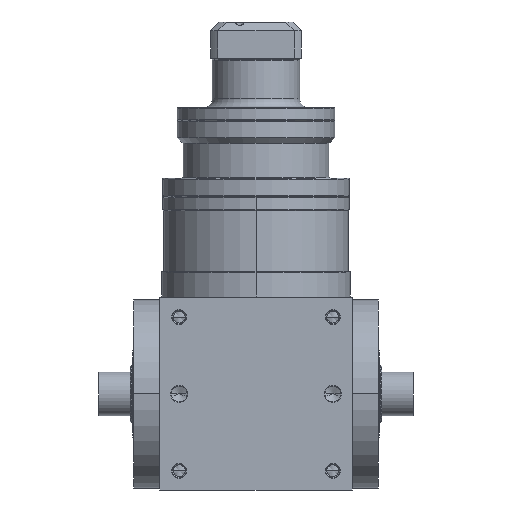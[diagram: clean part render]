
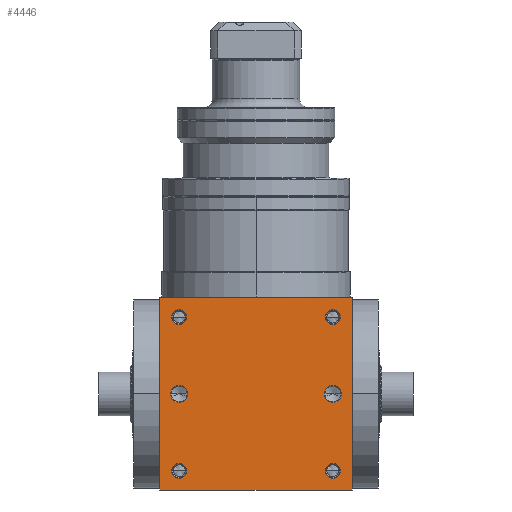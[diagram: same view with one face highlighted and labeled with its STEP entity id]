
A CAD part, front view. The second image highlights one B-rep face of the part: STEP entity #4446.
In plain terms, the highlighted planar face has unit normal (0, -1, 0).
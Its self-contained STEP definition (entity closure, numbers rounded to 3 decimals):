
#5=DIRECTION('',(1.,0.,0.));
#6=VECTOR('',#5,110.);
#7=CARTESIAN_POINT('',(-55.,-55.,-55.));
#8=LINE('',#7,#6);
#155=DIRECTION('',(0.,0.,1.));
#156=VECTOR('',#155,110.);
#157=CARTESIAN_POINT('',(55.,-55.,-55.));
#158=LINE('',#157,#156);
#209=DIRECTION('',(0.,0.,1.));
#210=VECTOR('',#209,110.);
#211=CARTESIAN_POINT('',(-55.,-55.,-55.));
#212=LINE('',#211,#210);
#213=CARTESIAN_POINT('',(44.,-55.,44.));
#214=DIRECTION('',(0.,1.,0.));
#215=DIRECTION('',(-1.,0.,0.));
#216=AXIS2_PLACEMENT_3D('',#213,#214,#215);
#218=CARTESIAN_POINT('',(44.,-55.,44.));
#219=DIRECTION('',(0.,1.,0.));
#220=DIRECTION('',(1.,0.,0.));
#221=AXIS2_PLACEMENT_3D('',#218,#219,#220);
#223=CARTESIAN_POINT('',(-44.,-55.,44.));
#224=DIRECTION('',(0.,1.,0.));
#225=DIRECTION('',(-1.,0.,0.));
#226=AXIS2_PLACEMENT_3D('',#223,#224,#225);
#228=CARTESIAN_POINT('',(-44.,-55.,44.));
#229=DIRECTION('',(0.,1.,0.));
#230=DIRECTION('',(1.,0.,0.));
#231=AXIS2_PLACEMENT_3D('',#228,#229,#230);
#233=CARTESIAN_POINT('',(44.,-55.,-44.));
#234=DIRECTION('',(0.,1.,0.));
#235=DIRECTION('',(-1.,0.,0.));
#236=AXIS2_PLACEMENT_3D('',#233,#234,#235);
#238=CARTESIAN_POINT('',(44.,-55.,-44.));
#239=DIRECTION('',(0.,1.,0.));
#240=DIRECTION('',(1.,0.,0.));
#241=AXIS2_PLACEMENT_3D('',#238,#239,#240);
#243=CARTESIAN_POINT('',(-44.,-55.,-44.));
#244=DIRECTION('',(0.,1.,0.));
#245=DIRECTION('',(-1.,0.,0.));
#246=AXIS2_PLACEMENT_3D('',#243,#244,#245);
#248=CARTESIAN_POINT('',(-44.,-55.,-44.));
#249=DIRECTION('',(0.,1.,0.));
#250=DIRECTION('',(1.,0.,0.));
#251=AXIS2_PLACEMENT_3D('',#248,#249,#250);
#253=CARTESIAN_POINT('',(-44.,-55.,0.));
#254=DIRECTION('',(0.,1.,0.));
#255=DIRECTION('',(1.,0.,0.));
#256=AXIS2_PLACEMENT_3D('',#253,#254,#255);
#258=CARTESIAN_POINT('',(-44.,-55.,0.));
#259=DIRECTION('',(0.,1.,0.));
#260=DIRECTION('',(-1.,0.,0.));
#261=AXIS2_PLACEMENT_3D('',#258,#259,#260);
#263=CARTESIAN_POINT('',(44.,-55.,0.));
#264=DIRECTION('',(0.,1.,0.));
#265=DIRECTION('',(1.,0.,0.));
#266=AXIS2_PLACEMENT_3D('',#263,#264,#265);
#268=CARTESIAN_POINT('',(44.,-55.,0.));
#269=DIRECTION('',(0.,1.,0.));
#270=DIRECTION('',(-1.,0.,0.));
#271=AXIS2_PLACEMENT_3D('',#268,#269,#270);
#285=DIRECTION('',(1.,0.,0.));
#286=VECTOR('',#285,110.);
#287=CARTESIAN_POINT('',(-55.,-55.,55.));
#288=LINE('',#287,#286);
#3580=CARTESIAN_POINT('',(-55.,-55.,-55.));
#3582=VERTEX_POINT('',#3580);
#3583=CARTESIAN_POINT('',(55.,-55.,-55.));
#3584=VERTEX_POINT('',#3583);
#3588=CARTESIAN_POINT('',(-55.,-55.,55.));
#3590=VERTEX_POINT('',#3588);
#3591=CARTESIAN_POINT('',(55.,-55.,55.));
#3592=VERTEX_POINT('',#3591);
#3747=CARTESIAN_POINT('',(39.8,-55.,44.));
#3748=CARTESIAN_POINT('',(48.2,-55.,44.));
#3749=VERTEX_POINT('',#3747);
#3750=VERTEX_POINT('',#3748);
#3755=CARTESIAN_POINT('',(-48.2,-55.,44.));
#3756=CARTESIAN_POINT('',(-39.8,-55.,44.));
#3757=VERTEX_POINT('',#3755);
#3758=VERTEX_POINT('',#3756);
#3763=CARTESIAN_POINT('',(39.8,-55.,-44.));
#3764=CARTESIAN_POINT('',(48.2,-55.,-44.));
#3765=VERTEX_POINT('',#3763);
#3766=VERTEX_POINT('',#3764);
#3771=CARTESIAN_POINT('',(-48.2,-55.,-44.));
#3772=CARTESIAN_POINT('',(-39.8,-55.,-44.));
#3773=VERTEX_POINT('',#3771);
#3774=VERTEX_POINT('',#3772);
#4095=CARTESIAN_POINT('',(-39.15,-55.,
0.));
#4096=CARTESIAN_POINT('',(-48.85,-55.,
0.));
#4097=VERTEX_POINT('',#4095);
#4098=VERTEX_POINT('',#4096);
#4103=CARTESIAN_POINT('',(48.85,-55.,0.));
#4104=CARTESIAN_POINT('',(39.15,-55.,0.));
#4105=VERTEX_POINT('',#4103);
#4106=VERTEX_POINT('',#4104);
#4398=CARTESIAN_POINT('',(-55.,-55.,-55.));
#4399=DIRECTION('',(0.,-1.,0.));
#4400=DIRECTION('',(1.,0.,0.));
#4401=AXIS2_PLACEMENT_3D('',#4398,#4399,#4400);
#4402=PLANE('',#4401);
#4403=ORIENTED_EDGE('',*,*,#4238,.F.);
#4404=ORIENTED_EDGE('',*,*,#4281,.T.);
#4406=ORIENTED_EDGE('',*,*,#4405,.T.);
#4407=ORIENTED_EDGE('',*,*,#4360,.F.);
#4408=EDGE_LOOP('',(#4403,#4404,#4406,#4407));
#4409=FACE_OUTER_BOUND('',#4408,.F.);
#4411=ORIENTED_EDGE('',*,*,#4410,.F.);
#4413=ORIENTED_EDGE('',*,*,#4412,.F.);
#4414=EDGE_LOOP('',(#4411,#4413));
#4415=FACE_BOUND('',#4414,.F.);
#4417=ORIENTED_EDGE('',*,*,#4416,.F.);
#4419=ORIENTED_EDGE('',*,*,#4418,.F.);
#4420=EDGE_LOOP('',(#4417,#4419));
#4421=FACE_BOUND('',#4420,.F.);
#4423=ORIENTED_EDGE('',*,*,#4422,.F.);
#4425=ORIENTED_EDGE('',*,*,#4424,.F.);
#4426=EDGE_LOOP('',(#4423,#4425));
#4427=FACE_BOUND('',#4426,.F.);
#4429=ORIENTED_EDGE('',*,*,#4428,.F.);
#4431=ORIENTED_EDGE('',*,*,#4430,.F.);
#4432=EDGE_LOOP('',(#4429,#4431));
#4433=FACE_BOUND('',#4432,.F.);
#4435=ORIENTED_EDGE('',*,*,#4434,.F.);
#4437=ORIENTED_EDGE('',*,*,#4436,.F.);
#4438=EDGE_LOOP('',(#4435,#4437));
#4439=FACE_BOUND('',#4438,.F.);
#4441=ORIENTED_EDGE('',*,*,#4440,.F.);
#4443=ORIENTED_EDGE('',*,*,#4442,.F.);
#4444=EDGE_LOOP('',(#4441,#4443));
#4445=FACE_BOUND('',#4444,.F.);
#4446=ADVANCED_FACE('',(#4409,#4415,#4421,#4427,#4433,#4439,#4445),#4402,.T.);
#217=CIRCLE('',#216,4.2);
#222=CIRCLE('',#221,4.2);
#227=CIRCLE('',#226,4.2);
#232=CIRCLE('',#231,4.2);
#237=CIRCLE('',#236,4.2);
#242=CIRCLE('',#241,4.2);
#247=CIRCLE('',#246,4.2);
#252=CIRCLE('',#251,4.2);
#257=CIRCLE('',#256,4.85);
#262=CIRCLE('',#261,4.85);
#267=CIRCLE('',#266,4.85);
#272=CIRCLE('',#271,4.85);
#4238=EDGE_CURVE('',#3582,#3584,#8,.T.);
#4281=EDGE_CURVE('',#3582,#3590,#212,.T.);
#4360=EDGE_CURVE('',#3584,#3592,#158,.T.);
#4405=EDGE_CURVE('',#3590,#3592,#288,.T.);
#4410=EDGE_CURVE('',#3749,#3750,#217,.T.);
#4412=EDGE_CURVE('',#3750,#3749,#222,.T.);
#4416=EDGE_CURVE('',#3757,#3758,#227,.T.);
#4418=EDGE_CURVE('',#3758,#3757,#232,.T.);
#4422=EDGE_CURVE('',#3765,#3766,#237,.T.);
#4424=EDGE_CURVE('',#3766,#3765,#242,.T.);
#4428=EDGE_CURVE('',#3773,#3774,#247,.T.);
#4430=EDGE_CURVE('',#3774,#3773,#252,.T.);
#4434=EDGE_CURVE('',#4097,#4098,#257,.T.);
#4436=EDGE_CURVE('',#4098,#4097,#262,.T.);
#4440=EDGE_CURVE('',#4105,#4106,#267,.T.);
#4442=EDGE_CURVE('',#4106,#4105,#272,.T.);
